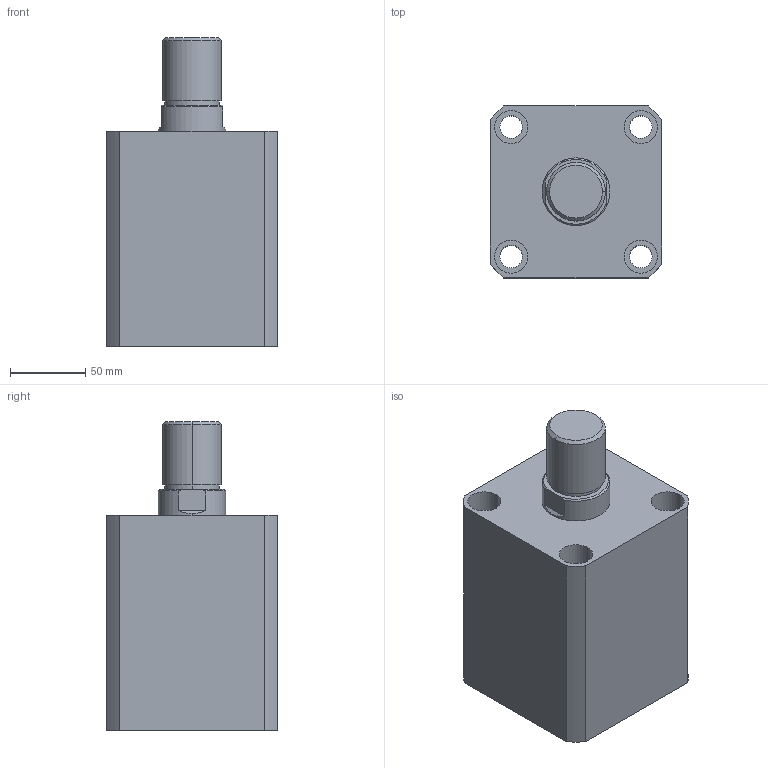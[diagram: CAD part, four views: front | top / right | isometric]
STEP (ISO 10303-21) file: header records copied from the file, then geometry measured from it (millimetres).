
FILE_DESCRIPTION (( 'STEP AP203' ), '1' );
FILE_NAME ('HTB-SDMB80-65W.STEP', '2019-10-09T06:09:17', ( '微软用户' ), ( '微软中国' ), 'SwSTEP 2.0', 'SolidWorks 2012', '' );
FILE_SCHEMA (( 'CONFIG_CONTROL_DESIGN' ));
Length unit declared in the file: millimetre
Products named in the file (3): HTB-SDMB80-65掛极; HTB-SDMB80-65W活塞杆; HTB-SDMB80-65W
Assembly tree (2 placements, depth 2):
  HTB-SDMB80-65W
    HTB-SDMB80-65掛极
    HTB-SDMB80-65W活塞杆
Bounding box: 114 x 114 x 205 mm (x, y, z)
Volume: 1565668.6 mm3; surface area: 191528.5 mm2
Topology: 2 solids, 2 shells, 141 faces, 337 edges, 222 vertices
Faces by surface type: plane 67, cylinder 48, bspline 16, torus 6, cone 4
Entity records: 5180 total; most frequent: CARTESIAN_POINT 1597, ORIENTED_EDGE 674, DIRECTION 669, EDGE_CURVE 337, AXIS2_PLACEMENT_3D 242, VERTEX_POINT 222, VECTOR 185, LINE 185
